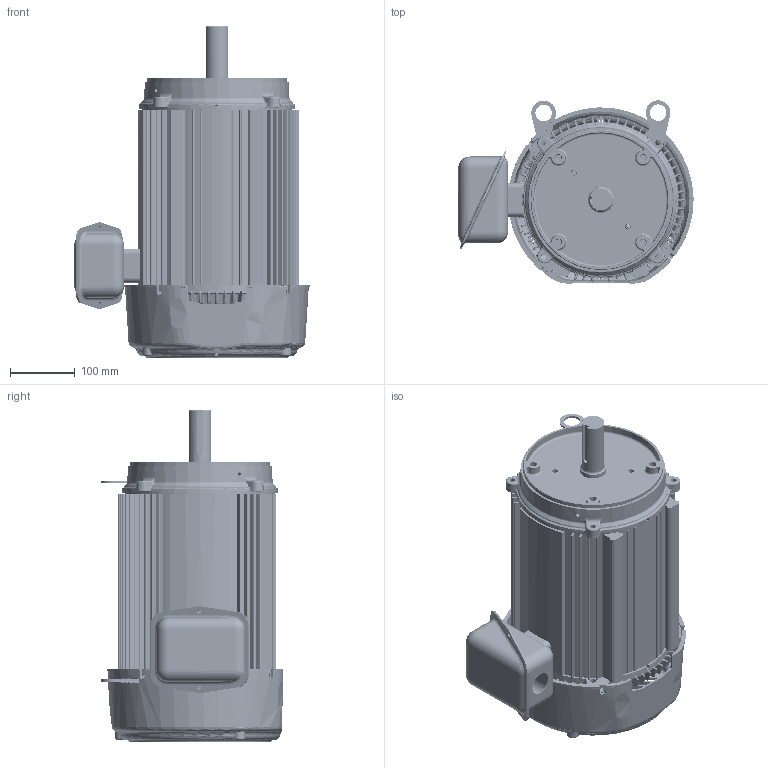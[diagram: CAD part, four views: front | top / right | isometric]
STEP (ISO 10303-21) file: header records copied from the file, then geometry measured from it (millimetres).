
FILE_DESCRIPTION((''),'2;1');
FILE_NAME('STD_CFACE_ASM','2014-07-02T',('emd2341'),('Nidec Motor Corporation'),'PRO/ENGINEER BY PARAMETRIC TECHNOLOGY CORPORATION, 2013150','PRO/ENGINEER BY PARAMETRIC TECHNOLOGY CORPORATION, 2013150','');
FILE_SCHEMA(('CONFIG_CONTROL_DESIGN'));
Length unit declared in the file: inch
Products named in the file (15): 0392317_AF0; 0390920; 0375083-BKT_AF1; 0361252_AF0; 0375084_ASM; 0362111; 0380744-BKT_AF1; 0298013_AF1; 0380745_ASM; 0345787; 0376890; 0398344; 0398343; 0364714; STD_CFACE_ASM
Assembly tree (15 placements, depth 3):
  STD_CFACE_ASM
    0392317_AF0
    0390920
    0375084_ASM
      0375083-BKT_AF1
      0361252_AF0
    0362111
    0380745_ASM
      0380744-BKT_AF1
      0298013_AF1
    0345787
    0376890  x2
    0398344
    0398343
    0364714
Bounding box: 362.3 x 281.68 x 511.16 mm (x, y, z)
Volume: 3757332.9 mm3; surface area: 1506583.6 mm2
Topology: 15 solids, 15 shells, 5480 faces, 13147 edges, 7673 vertices
Faces by surface type: bspline 2455, cylinder 1038, plane 1021, torus 476, cone 243, sphere 223, extrusion 24
Entity records: 286093 total; most frequent: CARTESIAN_POINT 177257, ORIENTED_EDGE 26236, DIRECTION 18157, EDGE_CURVE 13118, AXIS2_PLACEMENT_3D 7721, VERTEX_POINT 7657, B_SPLINE_CURVE_WITH_KNOTS 5755, EDGE_LOOP 5641
